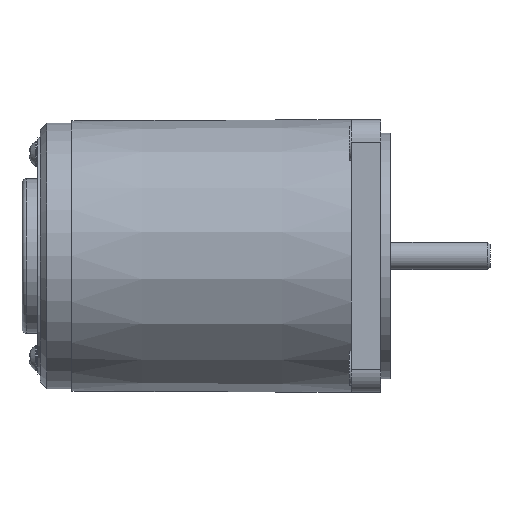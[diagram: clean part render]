
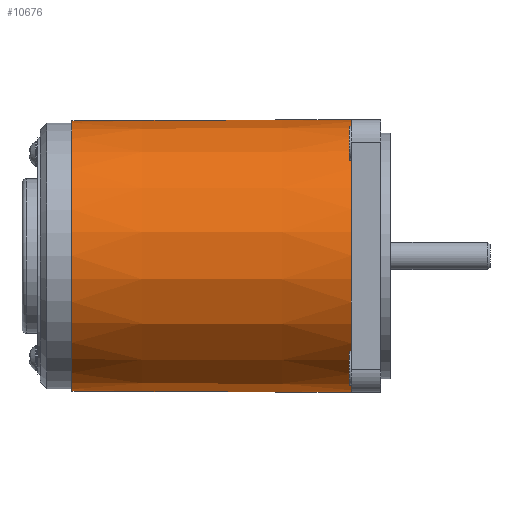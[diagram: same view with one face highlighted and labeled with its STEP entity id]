
A CAD part, top view. The second image highlights one B-rep face of the part: STEP entity #10676.
In plain terms, the highlighted conical face has half-angle 0.233 degrees and reference radius 29.875 mm.
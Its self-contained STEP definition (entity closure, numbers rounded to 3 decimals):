
#41=(
BOUNDED_CURVE()
B_SPLINE_CURVE(2,(#17815,#17816,#17817),.UNSPECIFIED.,.F.,.F.)
B_SPLINE_CURVE_WITH_KNOTS((3,3),(0.,4.2),.UNSPECIFIED.)
CURVE()
GEOMETRIC_REPRESENTATION_ITEM()
RATIONAL_B_SPLINE_CURVE((1.,1.,1.))
REPRESENTATION_ITEM('')
);
#42=(
BOUNDED_CURVE()
B_SPLINE_CURVE(2,(#17901,#17902,#17903),.UNSPECIFIED.,.F.,.F.)
B_SPLINE_CURVE_WITH_KNOTS((3,3),(0.,4.2),.UNSPECIFIED.)
CURVE()
GEOMETRIC_REPRESENTATION_ITEM()
RATIONAL_B_SPLINE_CURVE((1.,1.,1.))
REPRESENTATION_ITEM('')
);
#1910=CONICAL_SURFACE('',#11688,29.875,0.233);
#2170=FACE_BOUND('',#3345,.T.);
#2693=FACE_OUTER_BOUND('',#3344,.T.);
#3344=EDGE_LOOP('',(#8706));
#3345=EDGE_LOOP('',(#8707,#8708,#8709,#8710,#8711,#8712,#8713,#8714,#8715));
#3931=CIRCLE('',#11680,29.829);
#3934=CIRCLE('',#11685,29.829);
#3936=CIRCLE('',#11687,29.829);
#3937=CIRCLE('',#11689,29.75);
#3938=CIRCLE('',#11690,30.);
#3939=CIRCLE('',#11691,30.);
#3940=CIRCLE('',#11692,30.);
#3941=CIRCLE('',#11693,30.);
#4754=VERTEX_POINT('',#17704);
#4755=VERTEX_POINT('',#17711);
#4760=VERTEX_POINT('',#17811);
#4761=VERTEX_POINT('',#17813);
#4764=VERTEX_POINT('',#17898);
#4765=VERTEX_POINT('',#17900);
#4766=VERTEX_POINT('',#17906);
#4767=VERTEX_POINT('',#17908);
#4768=VERTEX_POINT('',#17910);
#4769=VERTEX_POINT('',#17912);
#6112=EDGE_CURVE('',#4755,#4754,#3931,.T.);
#6122=EDGE_CURVE('',#4761,#4755,#3934,.T.);
#6123=EDGE_CURVE('',#4760,#4761,#41,.T.);
#6129=EDGE_CURVE('',#4765,#4764,#42,.T.);
#6130=EDGE_CURVE('',#4754,#4765,#3936,.T.);
#6131=EDGE_CURVE('',#4766,#4766,#3937,.T.);
#6132=EDGE_CURVE('',#4767,#4764,#3938,.T.);
#6133=EDGE_CURVE('',#4768,#4767,#3939,.T.);
#6134=EDGE_CURVE('',#4769,#4768,#3940,.T.);
#6135=EDGE_CURVE('',#4760,#4769,#3941,.T.);
#8706=ORIENTED_EDGE('',*,*,#6131,.T.);
#8707=ORIENTED_EDGE('',*,*,#6123,.T.);
#8708=ORIENTED_EDGE('',*,*,#6122,.T.);
#8709=ORIENTED_EDGE('',*,*,#6112,.T.);
#8710=ORIENTED_EDGE('',*,*,#6130,.T.);
#8711=ORIENTED_EDGE('',*,*,#6129,.T.);
#8712=ORIENTED_EDGE('',*,*,#6132,.F.);
#8713=ORIENTED_EDGE('',*,*,#6133,.F.);
#8714=ORIENTED_EDGE('',*,*,#6134,.F.);
#8715=ORIENTED_EDGE('',*,*,#6135,.F.);
#10676=ADVANCED_FACE('',(#2693,#2170),#1910,.T.);
#11680=AXIS2_PLACEMENT_3D('',#17712,#14308,#14309);
#11685=AXIS2_PLACEMENT_3D('',#17814,#14321,#14322);
#11687=AXIS2_PLACEMENT_3D('',#17904,#14327,#14328);
#11688=AXIS2_PLACEMENT_3D('',#17905,#14329,#14330);
#11689=AXIS2_PLACEMENT_3D('',#17907,#14331,#14332);
#11690=AXIS2_PLACEMENT_3D('',#17909,#14333,#14334);
#11691=AXIS2_PLACEMENT_3D('',#17911,#14335,#14336);
#11692=AXIS2_PLACEMENT_3D('',#17913,#14337,#14338);
#11693=AXIS2_PLACEMENT_3D('',#17914,#14339,#14340);
#14308=DIRECTION('center_axis',(-1.,0.,0.));
#14309=DIRECTION('ref_axis',(0.,1.,0.));
#14321=DIRECTION('center_axis',(-1.,0.,0.));
#14322=DIRECTION('ref_axis',(0.,1.,0.));
#14327=DIRECTION('center_axis',(-1.,0.,0.));
#14328=DIRECTION('ref_axis',(0.,1.,0.));
#14329=DIRECTION('center_axis',(1.,0.,0.));
#14330=DIRECTION('ref_axis',(0.,1.,0.));
#14331=DIRECTION('center_axis',(1.,0.,0.));
#14332=DIRECTION('ref_axis',(0.,1.,0.));
#14333=DIRECTION('center_axis',(1.,0.,0.));
#14334=DIRECTION('ref_axis',(0.,1.,0.));
#14335=DIRECTION('center_axis',(1.,0.,0.));
#14336=DIRECTION('ref_axis',(0.,1.,0.));
#14337=DIRECTION('center_axis',(1.,0.,0.));
#14338=DIRECTION('ref_axis',(0.,1.,0.));
#14339=DIRECTION('center_axis',(1.,0.,0.));
#14340=DIRECTION('ref_axis',(0.,1.,0.));
#17704=CARTESIAN_POINT('',(26.5,-21.289,-20.894));
#17711=CARTESIAN_POINT('',(26.5,21.289,-20.894));
#17712=CARTESIAN_POINT('Origin',(26.5,0.,0.));
#17811=CARTESIAN_POINT('',(68.5,21.782,-20.628));
#17813=CARTESIAN_POINT('',(26.5,21.769,-20.393));
#17814=CARTESIAN_POINT('Origin',(26.5,0.,0.));
#17815=CARTESIAN_POINT('Ctrl Pts',(68.5,21.782,-20.628));
#17816=CARTESIAN_POINT('Ctrl Pts',(47.386,21.776,-20.51));
#17817=CARTESIAN_POINT('Ctrl Pts',(26.5,21.769,-20.393));
#17898=CARTESIAN_POINT('',(68.5,-21.782,-20.628));
#17900=CARTESIAN_POINT('',(26.5,-21.769,-20.393));
#17901=CARTESIAN_POINT('Ctrl Pts',(26.5,-21.769,-20.393));
#17902=CARTESIAN_POINT('Ctrl Pts',(47.386,-21.776,-20.51));
#17903=CARTESIAN_POINT('Ctrl Pts',(68.5,-21.782,-20.628));
#17904=CARTESIAN_POINT('Origin',(26.5,0.,0.));
#17905=CARTESIAN_POINT('Origin',(37.75,0.,0.));
#17906=CARTESIAN_POINT('',(7.,29.75,0.));
#17907=CARTESIAN_POINT('Origin',(7.,0.,0.));
#17908=CARTESIAN_POINT('',(68.5,-30.,0.));
#17909=CARTESIAN_POINT('Origin',(68.5,0.,0.));
#17910=CARTESIAN_POINT('',(68.5,0.,30.));
#17911=CARTESIAN_POINT('Origin',(68.5,0.,0.));
#17912=CARTESIAN_POINT('',(68.5,30.,0.));
#17913=CARTESIAN_POINT('Origin',(68.5,0.,0.));
#17914=CARTESIAN_POINT('Origin',(68.5,0.,0.));
